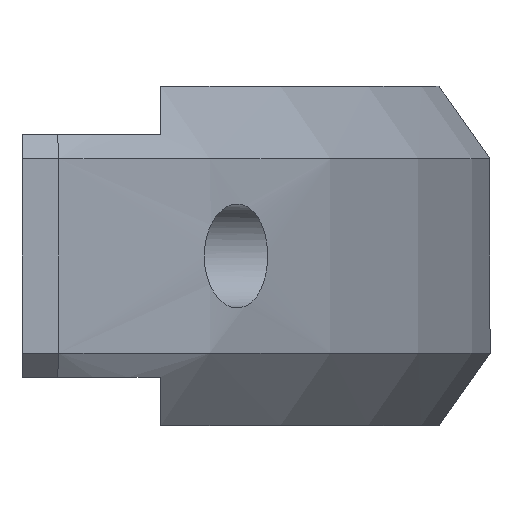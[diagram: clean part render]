
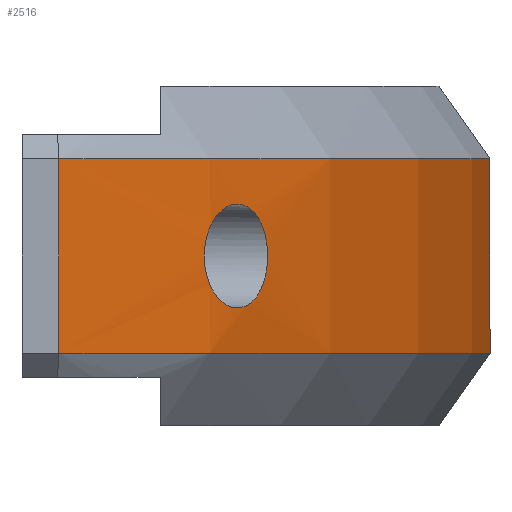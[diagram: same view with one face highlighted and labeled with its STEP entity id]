
A CAD part, left-side view. The second image highlights one B-rep face of the part: STEP entity #2516.
In plain terms, the highlighted cylindrical face has radius 50 mm (diameter 100 mm), a partial arc.
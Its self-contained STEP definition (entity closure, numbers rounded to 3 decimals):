
#60=B_SPLINE_CURVE_WITH_KNOTS('',3,(#3542,#3543,#3544,#3545,#3546,#3547,
#3548,#3549,#3550,#3551,#3552,#3553,#3554,#3555,#3556,#3557,#3558,#3559,
#3560,#3561,#3562,#3563,#3564,#3565,#3566,#3567,#3568,#3569,#3570,#3571,
#3572,#3573,#3574,#3575),.UNSPECIFIED.,.T.,.F.,(4,2,2,2,2,2,2,2,2,2,2,2,
2,2,2,2,4),(0.,0.056,0.112,0.18,0.247,
0.313,0.379,0.435,0.492,0.548,
0.604,0.67,0.736,0.803,
0.871,0.927,0.983),.UNSPECIFIED.);
#61=B_SPLINE_CURVE_WITH_KNOTS('',3,(#3588,#3589,#3590,#3591,#3592,#3593,
#3594,#3595,#3596,#3597,#3598,#3599,#3600,#3601,#3602,#3603,#3604,#3605,
#3606,#3607,#3608,#3609,#3610,#3611,#3612,#3613,#3614,#3615,#3616,#3617,
#3618,#3619,#3620,#3621),.UNSPECIFIED.,.T.,.F.,(4,2,2,2,2,2,2,2,2,2,2,2,
2,2,2,2,4),(0.,0.056,0.112,0.178,0.244,
0.312,0.379,0.435,0.492,
0.548,0.604,0.671,0.739,
0.805,0.871,0.927,0.983),
 .UNSPECIFIED.);
#163=CYLINDRICAL_SURFACE('',#2715,50.);
#184=FACE_BOUND('',#424,.T.);
#185=FACE_BOUND('',#425,.T.);
#209=CIRCLE('',#2679,50.);
#225=CIRCLE('',#2713,50.);
#271=FACE_OUTER_BOUND('',#423,.T.);
#423=EDGE_LOOP('',(#1838,#1839,#1840,#1841));
#424=EDGE_LOOP('',(#1842));
#425=EDGE_LOOP('',(#1843));
#586=LINE('',#3416,#820);
#592=LINE('',#3431,#826);
#820=VECTOR('',#2852,10.);
#826=VECTOR('',#2868,10.);
#1021=VERTEX_POINT('',#3329);
#1062=VERTEX_POINT('',#3415);
#1064=VERTEX_POINT('',#3423);
#1066=VERTEX_POINT('',#3429);
#1097=VERTEX_POINT('',#3540);
#1101=VERTEX_POINT('',#3586);
#1315=EDGE_CURVE('',#1021,#1062,#586,.T.);
#1323=EDGE_CURVE('',#1064,#1066,#592,.T.);
#1344=EDGE_CURVE('',#1021,#1064,#209,.T.);
#1374=EDGE_CURVE('',#1097,#1097,#60,.T.);
#1380=EDGE_CURVE('',#1101,#1101,#61,.T.);
#1381=EDGE_CURVE('',#1066,#1062,#225,.T.);
#1838=ORIENTED_EDGE('',*,*,#1381,.T.);
#1839=ORIENTED_EDGE('',*,*,#1315,.F.);
#1840=ORIENTED_EDGE('',*,*,#1344,.T.);
#1841=ORIENTED_EDGE('',*,*,#1323,.T.);
#1842=ORIENTED_EDGE('',*,*,#1374,.T.);
#1843=ORIENTED_EDGE('',*,*,#1380,.T.);
#2516=ADVANCED_FACE('',(#271,#184,#185),#163,.T.);
#2679=AXIS2_PLACEMENT_3D('',#3476,#2911,#2912);
#2713=AXIS2_PLACEMENT_3D('',#3623,#2996,#2997);
#2715=AXIS2_PLACEMENT_3D('',#3625,#3000,#3001);
#2852=DIRECTION('',(0.,0.,-1.));
#2868=DIRECTION('',(0.,0.,-1.));
#2911=DIRECTION('center_axis',(0.,0.,-1.));
#2912=DIRECTION('ref_axis',(-0.66,-0.751,0.));
#2996=DIRECTION('center_axis',(0.,0.,1.));
#2997=DIRECTION('ref_axis',(-0.66,-0.751,0.));
#3000=DIRECTION('center_axis',(0.,0.,1.));
#3001=DIRECTION('ref_axis',(-0.66,-0.751,0.));
#3329=CARTESIAN_POINT('',(33.,-1.063,2.8));
#3415=CARTESIAN_POINT('',(33.,-1.063,-2.8));
#3416=CARTESIAN_POINT('',(33.,-1.063,0.));
#3423=CARTESIAN_POINT('',(-33.,-1.063,2.8));
#3429=CARTESIAN_POINT('',(-33.,-1.063,-2.8));
#3431=CARTESIAN_POINT('',(-33.,-1.063,0.));
#3476=CARTESIAN_POINT('Origin',(0.,36.5,2.8));
#3540=CARTESIAN_POINT('',(-27.5,-5.258,0.));
#3542=CARTESIAN_POINT('Ctrl Pts',(-27.5,-5.258,0.));
#3543=CARTESIAN_POINT('Ctrl Pts',(-27.5,-5.258,0.187));
#3544=CARTESIAN_POINT('Ctrl Pts',(-27.463,-5.283,0.384));
#3545=CARTESIAN_POINT('Ctrl Pts',(-27.319,-5.377,0.74));
#3546=CARTESIAN_POINT('Ctrl Pts',(-27.212,-5.447,0.9));
#3547=CARTESIAN_POINT('Ctrl Pts',(-26.955,-5.613,1.175));
#3548=CARTESIAN_POINT('Ctrl Pts',(-26.779,-5.725,1.299));
#3549=CARTESIAN_POINT('Ctrl Pts',(-26.397,-5.965,1.461));
#3550=CARTESIAN_POINT('Ctrl Pts',(-26.192,-6.092,1.5));
#3551=CARTESIAN_POINT('Ctrl Pts',(-25.812,-6.323,1.5));
#3552=CARTESIAN_POINT('Ctrl Pts',(-25.608,-6.445,1.462));
#3553=CARTESIAN_POINT('Ctrl Pts',(-25.227,-6.67,1.302));
#3554=CARTESIAN_POINT('Ctrl Pts',(-25.05,-6.773,1.179));
#3555=CARTESIAN_POINT('Ctrl Pts',(-24.79,-6.922,0.903));
#3556=CARTESIAN_POINT('Ctrl Pts',(-24.682,-6.983,0.742));
#3557=CARTESIAN_POINT('Ctrl Pts',(-24.537,-7.065,0.384));
#3558=CARTESIAN_POINT('Ctrl Pts',(-24.5,-7.086,0.187));
#3559=CARTESIAN_POINT('Ctrl Pts',(-24.5,-7.086,-0.187));
#3560=CARTESIAN_POINT('Ctrl Pts',(-24.537,-7.065,-0.384));
#3561=CARTESIAN_POINT('Ctrl Pts',(-24.682,-6.983,-0.742));
#3562=CARTESIAN_POINT('Ctrl Pts',(-24.79,-6.922,-0.903));
#3563=CARTESIAN_POINT('Ctrl Pts',(-25.05,-6.773,-1.179));
#3564=CARTESIAN_POINT('Ctrl Pts',(-25.227,-6.67,-1.302));
#3565=CARTESIAN_POINT('Ctrl Pts',(-25.608,-6.445,-1.462));
#3566=CARTESIAN_POINT('Ctrl Pts',(-25.812,-6.323,-1.5));
#3567=CARTESIAN_POINT('Ctrl Pts',(-26.192,-6.092,-1.5));
#3568=CARTESIAN_POINT('Ctrl Pts',(-26.397,-5.965,-1.461));
#3569=CARTESIAN_POINT('Ctrl Pts',(-26.779,-5.725,-1.299));
#3570=CARTESIAN_POINT('Ctrl Pts',(-26.955,-5.613,-1.175));
#3571=CARTESIAN_POINT('Ctrl Pts',(-27.212,-5.447,-0.9));
#3572=CARTESIAN_POINT('Ctrl Pts',(-27.319,-5.377,-0.74));
#3573=CARTESIAN_POINT('Ctrl Pts',(-27.463,-5.283,-0.384));
#3574=CARTESIAN_POINT('Ctrl Pts',(-27.5,-5.258,-0.187));
#3575=CARTESIAN_POINT('Ctrl Pts',(-27.5,-5.258,0.));
#3586=CARTESIAN_POINT('',(24.5,-7.086,0.));
#3588=CARTESIAN_POINT('Ctrl Pts',(24.5,-7.086,0.));
#3589=CARTESIAN_POINT('Ctrl Pts',(24.5,-7.086,0.187));
#3590=CARTESIAN_POINT('Ctrl Pts',(24.537,-7.065,0.384));
#3591=CARTESIAN_POINT('Ctrl Pts',(24.682,-6.983,0.742));
#3592=CARTESIAN_POINT('Ctrl Pts',(24.79,-6.922,0.903));
#3593=CARTESIAN_POINT('Ctrl Pts',(25.05,-6.773,1.179));
#3594=CARTESIAN_POINT('Ctrl Pts',(25.227,-6.67,1.302));
#3595=CARTESIAN_POINT('Ctrl Pts',(25.608,-6.445,1.462));
#3596=CARTESIAN_POINT('Ctrl Pts',(25.812,-6.323,1.5));
#3597=CARTESIAN_POINT('Ctrl Pts',(26.192,-6.092,1.5));
#3598=CARTESIAN_POINT('Ctrl Pts',(26.397,-5.965,1.461));
#3599=CARTESIAN_POINT('Ctrl Pts',(26.779,-5.725,1.299));
#3600=CARTESIAN_POINT('Ctrl Pts',(26.955,-5.613,1.175));
#3601=CARTESIAN_POINT('Ctrl Pts',(27.212,-5.447,0.9));
#3602=CARTESIAN_POINT('Ctrl Pts',(27.319,-5.377,0.74));
#3603=CARTESIAN_POINT('Ctrl Pts',(27.463,-5.283,0.384));
#3604=CARTESIAN_POINT('Ctrl Pts',(27.5,-5.258,0.187));
#3605=CARTESIAN_POINT('Ctrl Pts',(27.5,-5.258,-0.187));
#3606=CARTESIAN_POINT('Ctrl Pts',(27.463,-5.283,-0.384));
#3607=CARTESIAN_POINT('Ctrl Pts',(27.319,-5.377,-0.74));
#3608=CARTESIAN_POINT('Ctrl Pts',(27.212,-5.447,-0.9));
#3609=CARTESIAN_POINT('Ctrl Pts',(26.955,-5.613,-1.175));
#3610=CARTESIAN_POINT('Ctrl Pts',(26.779,-5.725,-1.299));
#3611=CARTESIAN_POINT('Ctrl Pts',(26.397,-5.965,-1.461));
#3612=CARTESIAN_POINT('Ctrl Pts',(26.192,-6.092,-1.5));
#3613=CARTESIAN_POINT('Ctrl Pts',(25.812,-6.323,-1.5));
#3614=CARTESIAN_POINT('Ctrl Pts',(25.608,-6.445,-1.462));
#3615=CARTESIAN_POINT('Ctrl Pts',(25.227,-6.67,-1.302));
#3616=CARTESIAN_POINT('Ctrl Pts',(25.05,-6.773,-1.179));
#3617=CARTESIAN_POINT('Ctrl Pts',(24.79,-6.922,-0.903));
#3618=CARTESIAN_POINT('Ctrl Pts',(24.682,-6.983,-0.742));
#3619=CARTESIAN_POINT('Ctrl Pts',(24.537,-7.065,-0.384));
#3620=CARTESIAN_POINT('Ctrl Pts',(24.5,-7.086,-0.187));
#3621=CARTESIAN_POINT('Ctrl Pts',(24.5,-7.086,0.));
#3623=CARTESIAN_POINT('Origin',(0.,36.5,-2.8));
#3625=CARTESIAN_POINT('Origin',(0.,36.5,0.));
